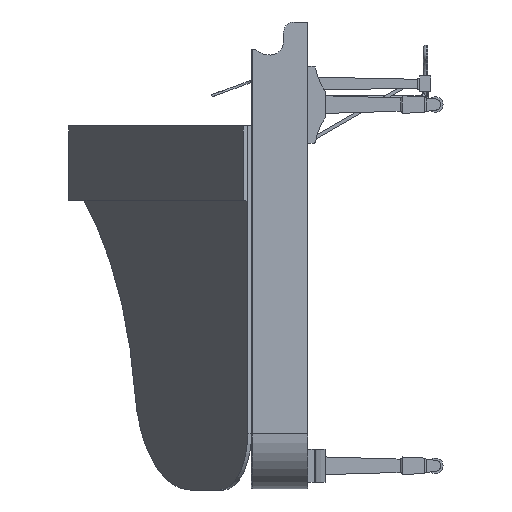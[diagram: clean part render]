
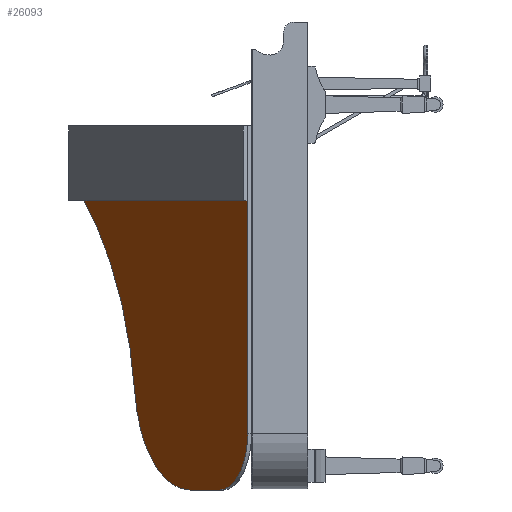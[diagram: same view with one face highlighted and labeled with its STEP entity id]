
A CAD part, left-side view. The second image highlights one B-rep face of the part: STEP entity #26093.
In plain terms, the highlighted planar face has unit normal (-0.5, 0.866, 0).
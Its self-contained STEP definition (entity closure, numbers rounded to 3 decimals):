
#3292=LINE('',#41950,#6535);
#3293=LINE('',#41952,#6536);
#3294=LINE('',#41954,#6537);
#3295=LINE('',#41956,#6538);
#3296=LINE('',#41958,#6539);
#3297=LINE('',#41960,#6540);
#3298=LINE('',#41962,#6541);
#3299=LINE('',#41964,#6542);
#3300=LINE('',#41966,#6543);
#3301=LINE('',#41974,#6544);
#6535=VECTOR('',#34272,10.);
#6536=VECTOR('',#34273,10.);
#6537=VECTOR('',#34274,10.);
#6538=VECTOR('',#34275,10.);
#6539=VECTOR('',#34276,10.);
#6540=VECTOR('',#34277,10.);
#6541=VECTOR('',#34278,10.);
#6542=VECTOR('',#34279,10.);
#6543=VECTOR('',#34280,10.);
#6544=VECTOR('',#34287,10.);
#8145=FACE_OUTER_BOUND('',#9512,.T.);
#9512=EDGE_LOOP('',(#22930,#22931,#22932,#22933,#22934,#22935,#22936,#22937,
#22938,#22939,#22940,#22941,#22942,#22943));
#9871=CIRCLE('',#27828,155.);
#9872=CIRCLE('',#27829,1495.);
#9873=CIRCLE('',#27830,505.);
#9874=CIRCLE('',#27831,255.);
#12145=VERTEX_POINT('',#41948);
#12146=VERTEX_POINT('',#41949);
#12147=VERTEX_POINT('',#41951);
#12148=VERTEX_POINT('',#41953);
#12149=VERTEX_POINT('',#41955);
#12150=VERTEX_POINT('',#41957);
#12151=VERTEX_POINT('',#41959);
#12152=VERTEX_POINT('',#41961);
#12153=VERTEX_POINT('',#41963);
#12154=VERTEX_POINT('',#41965);
#12155=VERTEX_POINT('',#41967);
#12156=VERTEX_POINT('',#41969);
#12157=VERTEX_POINT('',#41971);
#12158=VERTEX_POINT('',#41973);
#15759=EDGE_CURVE('',#12145,#12146,#3292,.T.);
#15760=EDGE_CURVE('',#12146,#12147,#3293,.T.);
#15761=EDGE_CURVE('',#12147,#12148,#3294,.T.);
#15762=EDGE_CURVE('',#12148,#12149,#3295,.T.);
#15763=EDGE_CURVE('',#12149,#12150,#3296,.T.);
#15764=EDGE_CURVE('',#12150,#12151,#3297,.T.);
#15765=EDGE_CURVE('',#12151,#12152,#3298,.T.);
#15766=EDGE_CURVE('',#12152,#12153,#3299,.T.);
#15767=EDGE_CURVE('',#12153,#12154,#3300,.T.);
#15768=EDGE_CURVE('',#12154,#12155,#9871,.T.);
#15769=EDGE_CURVE('',#12155,#12156,#9872,.T.);
#15770=EDGE_CURVE('',#12156,#12157,#9873,.T.);
#15771=EDGE_CURVE('',#12157,#12158,#3301,.T.);
#15772=EDGE_CURVE('',#12158,#12145,#9874,.T.);
#22930=ORIENTED_EDGE('',*,*,#15759,.T.);
#22931=ORIENTED_EDGE('',*,*,#15760,.T.);
#22932=ORIENTED_EDGE('',*,*,#15761,.T.);
#22933=ORIENTED_EDGE('',*,*,#15762,.T.);
#22934=ORIENTED_EDGE('',*,*,#15763,.T.);
#22935=ORIENTED_EDGE('',*,*,#15764,.T.);
#22936=ORIENTED_EDGE('',*,*,#15765,.T.);
#22937=ORIENTED_EDGE('',*,*,#15766,.T.);
#22938=ORIENTED_EDGE('',*,*,#15767,.T.);
#22939=ORIENTED_EDGE('',*,*,#15768,.T.);
#22940=ORIENTED_EDGE('',*,*,#15769,.T.);
#22941=ORIENTED_EDGE('',*,*,#15770,.T.);
#22942=ORIENTED_EDGE('',*,*,#15771,.T.);
#22943=ORIENTED_EDGE('',*,*,#15772,.T.);
#24358=PLANE('',#27827);
#26093=ADVANCED_FACE('',(#8145),#24358,.F.);
#27827=AXIS2_PLACEMENT_3D('',#41947,#34270,#34271);
#27828=AXIS2_PLACEMENT_3D('',#41968,#34281,#34282);
#27829=AXIS2_PLACEMENT_3D('',#41970,#34283,#34284);
#27830=AXIS2_PLACEMENT_3D('',#41972,#34285,#34286);
#27831=AXIS2_PLACEMENT_3D('',#41975,#34288,#34289);
#34270=DIRECTION('center_axis',(0.5,-0.866,0.));
#34271=DIRECTION('ref_axis',(0.,0.,-1.));
#34272=DIRECTION('',(0.,0.,1.));
#34273=DIRECTION('',(0.866,0.5,0.));
#34274=DIRECTION('',(0.866,0.5,0.));
#34275=DIRECTION('',(0.866,0.5,0.));
#34276=DIRECTION('',(0.866,0.5,0.));
#34277=DIRECTION('',(0.866,0.5,0.));
#34278=DIRECTION('',(0.866,0.5,0.));
#34279=DIRECTION('',(0.866,0.5,0.));
#34280=DIRECTION('',(0.,0.,-1.));
#34281=DIRECTION('center_axis',(-0.5,0.866,0.));
#34282=DIRECTION('ref_axis',(-0.866,-0.5,0.));
#34283=DIRECTION('center_axis',(0.5,-0.866,0.));
#34284=DIRECTION('ref_axis',(-0.857,-0.495,0.142));
#34285=DIRECTION('center_axis',(-0.5,0.866,0.));
#34286=DIRECTION('ref_axis',(-0.857,-0.495,0.142));
#34287=DIRECTION('',(-0.866,-0.5,0.));
#34288=DIRECTION('center_axis',(-0.5,0.866,0.));
#34289=DIRECTION('ref_axis',(0.,0.,
1.));
#41947=CARTESIAN_POINT('Origin',(-257.119,587.052,-1114.349));
#41948=CARTESIAN_POINT('',(-802.25,272.321,-1870.));
#41949=CARTESIAN_POINT('',(-802.25,272.321,-472.));
#41950=CARTESIAN_POINT('',(-802.25,272.321,-472.));
#41951=CARTESIAN_POINT('',(-592.455,393.446,-472.));
#41952=CARTESIAN_POINT('',(569.967,1064.571,-472.));
#41953=CARTESIAN_POINT('',(-505.853,443.446,-472.));
#41954=CARTESIAN_POINT('',(569.967,1064.571,-472.));
#41955=CARTESIAN_POINT('',(-159.443,643.446,-472.));
#41956=CARTESIAN_POINT('',(569.967,1064.571,-472.));
#41957=CARTESIAN_POINT('',(-72.84,693.446,-472.));
#41958=CARTESIAN_POINT('',(569.967,1064.571,-472.));
#41959=CARTESIAN_POINT('',(273.57,893.446,-472.));
#41960=CARTESIAN_POINT('',(569.967,1064.571,-472.));
#41961=CARTESIAN_POINT('',(360.173,943.446,-472.));
#41962=CARTESIAN_POINT('',(569.967,1064.571,-472.));
#41963=CARTESIAN_POINT('',(569.967,1064.571,-472.));
#41964=CARTESIAN_POINT('',(569.967,1064.571,-472.));
#41965=CARTESIAN_POINT('',(569.967,1064.571,-650.));
#41966=CARTESIAN_POINT('',(569.967,1064.571,-650.));
#41967=CARTESIAN_POINT('',(523.008,1037.459,-767.767));
#41968=CARTESIAN_POINT('Origin',(435.733,987.071,-650.));
#41969=CARTESIAN_POINT('',(83.17,783.518,-1691.621));
#41970=CARTESIAN_POINT('Origin',(1364.791,1523.462,-1903.649));
#41971=CARTESIAN_POINT('',(-349.752,533.571,-2125.));
#41972=CARTESIAN_POINT('Origin',(-349.752,533.571,-1620.));
#41973=CARTESIAN_POINT('',(-581.414,399.821,-2125.));
#41974=CARTESIAN_POINT('',(-581.414,399.821,-2125.));
#41975=CARTESIAN_POINT('Origin',(-581.414,399.821,-1870.));
